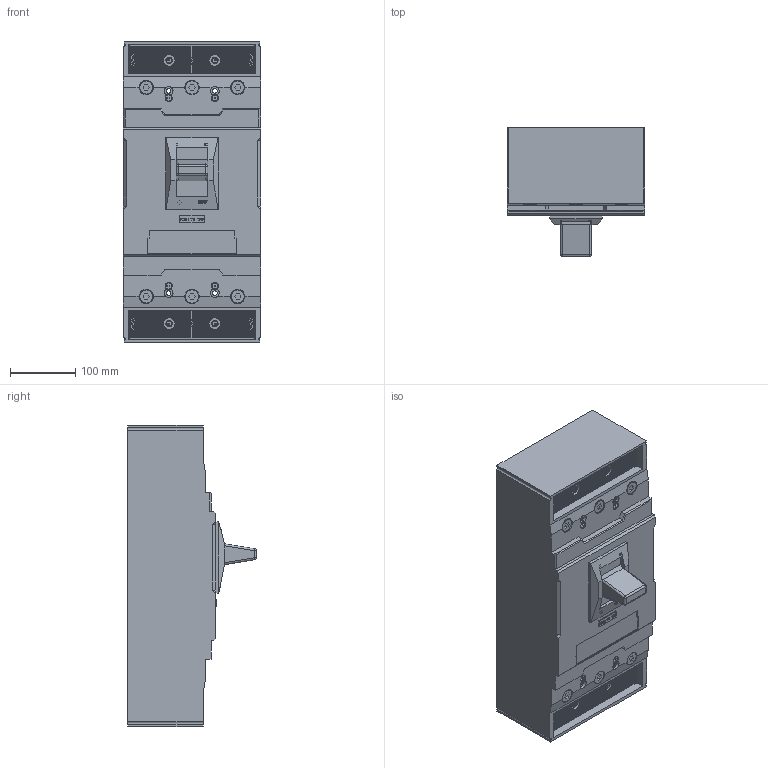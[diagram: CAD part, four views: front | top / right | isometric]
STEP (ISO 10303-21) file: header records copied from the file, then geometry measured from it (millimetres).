
FILE_DESCRIPTION(/* description */ ('','CAx-IF Rec.Pracs.---Representation and Presentation of Product Manufacturing Information (PMI)---3.8---2014-02-18'),/* implementation_level */ '2;1');
FILE_NAME(/* name */ 'E:\3D model\47-susol-mccb-800af-ul.stp',/* time_stamp */ '2017-11-09T14:54:38+03:00',/* author */ ('dobrin'),/* organization */ (''),/* preprocessor_version */ 'ST-DEVELOPER v16.13',/* originating_system */ 'Autodesk Inventor 2018',/* authorisation */ '');
FILE_SCHEMA (('AP242_MANAGED_MODEL_BASED_3D_ENGINEERING_MIM_LF { 1 0 10303 442 1 1 4 }'));
Length unit declared in the file: metre
Products named in the file (1): 47-susol-mccb-800af-ul
Bounding box: 210 x 197.5 x 461 mm (x, y, z)
Volume: 12036466.4 mm3; surface area: 418111.3 mm2
Topology: 1 solids, 1 shells, 1073 faces, 2897 edges, 1902 vertices
Faces by surface type: plane 879, cylinder 176, cone 14, sphere 4
Full cylindrical faces by diameter (mm): 7 x4, 10 x8, 18 x4, 21 x6, 22 x6
Entity records: 33185 total; most frequent: CARTESIAN_POINT 5824, ORIENTED_EDGE 5678, DIRECTION 5557, EDGE_CURVE 2839, LINE 2303, VECTOR 2303, VERTEX_POINT 1886, AXIS2_PLACEMENT_3D 1631
